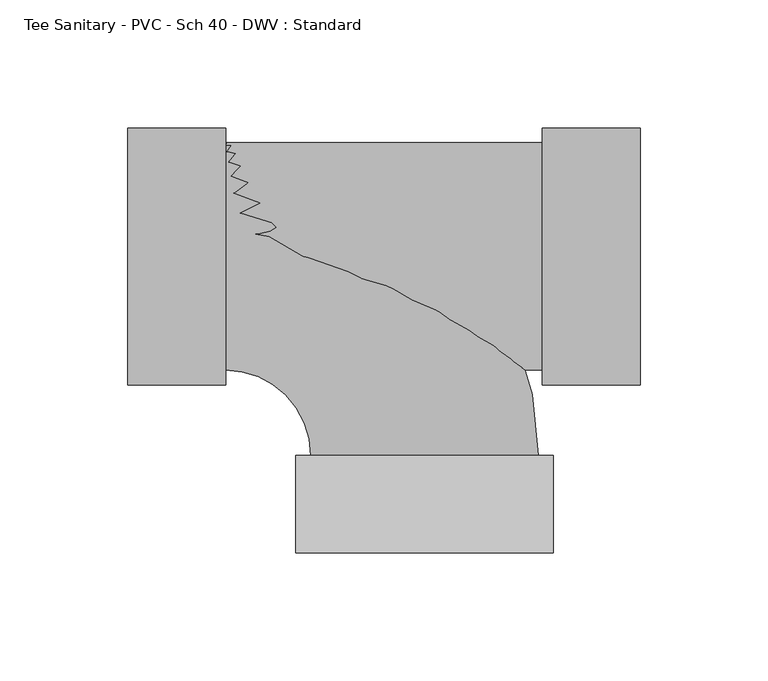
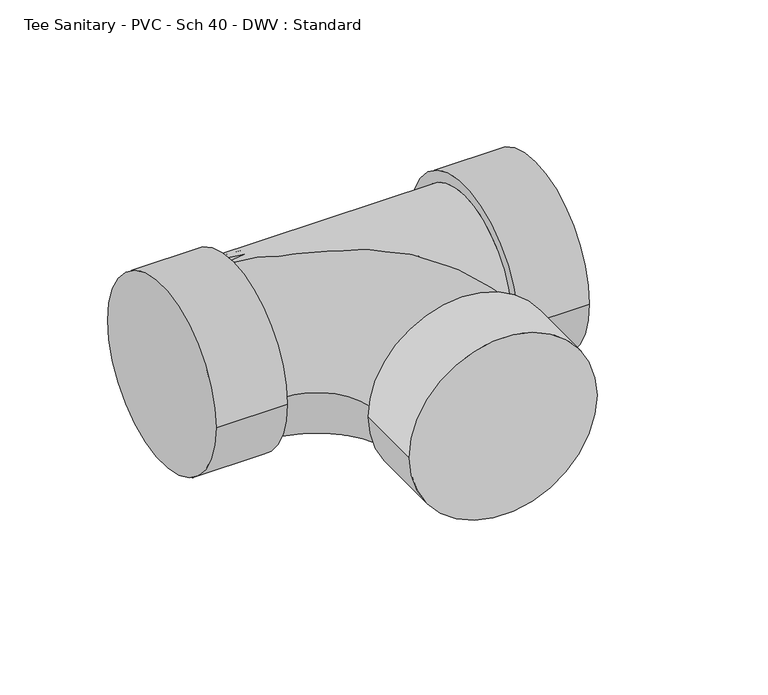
"""IFC4 building model written with IfcOpenShell, lengths in millimetres: pipe fitting geometry, Tee Sanitary - PVC - Sch 40 - DWV : Standard."""

import ifcopenshell
import ifcopenshell.guid

model = None  # the IFC model being written
_history = None  # IfcOwnerHistory: only IFC2X3 demands one
_inside = {}  # id of a spatial element -> (the spatial element, [elements in it])
_under = {}  # id of a project, library or spatial element -> (it, [spatial elements below it])
_declared = {}  # id of a project -> (the project, [libraries it declares])
_typed = {}  # id of a type object -> (the type object, [elements of that type])
_made_of = {}  # id of a material, layer set ... -> (it, [elements and type objects made of it])


def new_model(schema):
    """Start an empty IFC model of exactly this schema.

    Asked for "IFC4X3", IfcOpenShell would pick the latest addendum, in which some entities
    have other attributes; the version numbers below select the first issue.
    IFC2X3 requires an IfcOwnerHistory on every rooted entity: one is made here for all.
    """
    global model, _history
    if schema == "IFC4X3":
        model = ifcopenshell.file(schema_version=(4, 3, 0, 0))
    else:
        model = ifcopenshell.file(schema=schema)
    _inside.clear()
    _under.clear()
    _declared.clear()
    _typed.clear()
    _made_of.clear()
    _history = None
    if model.schema == "IFC2X3":
        org = make("IfcOrganization", Name="unknown")
        user = make(
            "IfcPersonAndOrganization",
            ThePerson=make("IfcPerson", FamilyName="unknown"),
            TheOrganization=org,
        )
        app = make(
            "IfcApplication",
            ApplicationDeveloper=org,
            Version="unknown",
            ApplicationFullName="unknown",
            ApplicationIdentifier="unknown",
        )
        _history = make(
            "IfcOwnerHistory",
            OwningUser=user,
            OwningApplication=app,
            ChangeAction="ADDED",
            CreationDate=0,
        )
    return model


def make(cls, **values):
    """One entity of the class cls with the attributes given. An attribute that is None is left unset."""
    return model.create_entity(
        cls, **{name: value for name, value in values.items() if value is not None}
    )


def rooted(cls, **values):
    """An entity with a GlobalId (a new one), such as an element, a storey or a relation."""
    return make(cls, GlobalId=ifcopenshell.guid.new(), OwnerHistory=_history, **values)


def si_unit(unit_type, name, prefix=None):
    """IfcSIUnit, for example si_unit("LENGTHUNIT", "METRE", prefix="MILLI")."""
    return make("IfcSIUnit", UnitType=unit_type, Prefix=prefix, Name=name)


def assignment(units):
    """IfcUnitAssignment: the units of a project."""
    return None if units is None else make("IfcUnitAssignment", Units=units)


def point(xyz):
    """IfcCartesianPoint."""
    return None if xyz is None else make("IfcCartesianPoint", Coordinates=xyz)


def direction(xyz):
    """IfcDirection."""
    return None if xyz is None else make("IfcDirection", DirectionRatios=xyz)


def frame(location, z_axis=None, x_axis=None):
    """IfcAxis2Placement3D, a coordinate frame: its origin and axes. An axis left out is left unset."""
    return make(
        "IfcAxis2Placement3D",
        Location=point(location),
        Axis=direction(z_axis),
        RefDirection=direction(x_axis),
    )


def origin():
    """The frame at (0, 0, 0) with its axes left unset."""
    return frame((0.0, 0.0, 0.0))


def place(relative_to, where):
    """IfcLocalPlacement: puts the frame where relative to a parent placement (None: the world)."""
    return make(
        "IfcLocalPlacement", PlacementRelTo=relative_to, RelativePlacement=where
    )


def context(
    kind, dimensions, precision=None, world=None, true_north=None, identifier=None
):
    """IfcGeometricRepresentationContext, for example the 3D "Model" context."""
    return make(
        "IfcGeometricRepresentationContext",
        ContextIdentifier=identifier,
        ContextType=kind,
        CoordinateSpaceDimension=dimensions,
        Precision=precision,
        WorldCoordinateSystem=world,
        TrueNorth=true_north,
    )


def project(units=None, contexts=None):
    """IfcProject with its units and contexts."""
    return rooted(
        "IfcProject",
        Name="project",
        RepresentationContexts=contexts,
        UnitsInContext=assignment(units),
    )


def spatial(cls, under=None, at=None, **own):
    """A site, building, storey or space (cls), placed at a placement, below another one or the project."""
    s = rooted(cls, ObjectPlacement=at, **own)
    if under is not None:
        _under.setdefault(under.id(), (under, []))[1].append(s)
    return s


def circle_curve(where, radius):
    """IfcCircle in the frame where."""
    return make("IfcCircle", Position=where, Radius=radius)


def ellipse_curve(where, semi_axis1, semi_axis2):
    """IfcEllipse in the frame where."""
    return make(
        "IfcEllipse", Position=where, SemiAxis1=semi_axis1, SemiAxis2=semi_axis2
    )


def trimmed(basis, trim1, trim2, sense, master):
    """IfcTrimmedCurve: the piece of a basis curve between two trims."""
    return make(
        "IfcTrimmedCurve",
        BasisCurve=basis,
        Trim1=trim1,
        Trim2=trim2,
        SenseAgreement=sense,
        MasterRepresentation=master,
    )


def shape(context_of_items, identifier, shape_type, items):
    """IfcShapeRepresentation: the items that make up one representation, for example the "Body"."""
    return make(
        "IfcShapeRepresentation",
        ContextOfItems=context_of_items,
        RepresentationIdentifier=identifier,
        RepresentationType=shape_type,
        Items=items,
    )


def source(mapping_origin, context_of_items, identifier, shape_type, items):
    """IfcRepresentationMap: a shape defined once, which mapped items show again and again."""
    return make(
        "IfcRepresentationMap",
        MappingOrigin=mapping_origin,
        MappedRepresentation=shape(context_of_items, identifier, shape_type, items),
    )


def transform(
    local_origin,
    x_axis=None,
    y_axis=None,
    z_axis=None,
    scale=None,
    scale2=None,
    scale3=None,
    uniform=True,
):
    """IfcCartesianTransformationOperator3D, or its non-uniform kind. x_axis, y_axis, z_axis: its Axis1, 2, 3."""
    if uniform:
        return make(
            "IfcCartesianTransformationOperator3D",
            Axis1=direction(x_axis),
            Axis2=direction(y_axis),
            LocalOrigin=point(local_origin),
            Scale=scale,
            Axis3=direction(z_axis),
        )
    return make(
        "IfcCartesianTransformationOperator3DnonUniform",
        Axis1=direction(x_axis),
        Axis2=direction(y_axis),
        LocalOrigin=point(local_origin),
        Scale=scale,
        Axis3=direction(z_axis),
        Scale2=scale2,
        Scale3=scale3,
    )


def mapped(mapping_source, mapping_target):
    """IfcMappedItem: shows the shape of a source again, moved by a transform."""
    return make(
        "IfcMappedItem", MappingSource=mapping_source, MappingTarget=mapping_target
    )


def made_of(thing, what):
    """Note that an element or type object is made of a material, layer set ...; save() writes the relation."""
    if what is not None:
        _made_of.setdefault(what.id(), (what, []))[1].append(thing)
    return thing


def element(
    cls,
    number,
    at=None,
    inside=None,
    cuts=None,
    type_object=None,
    material=None,
    context=None,
    identifier="Body",
    shape_type=None,
    held_by="IfcProductDefinitionShape",
    body=None,
    shapes=None,
    **own,
):
    """One element of the class cls, such as IfcWall. Its Tag is "e" and its number.

    at: its placement. inside: the storey or other place that contains it. cuts: it is an
    opening in that element (IfcRelVoidsElement). A single representation is given by context,
    identifier, shape_type and body (its items); several are given by shapes. held_by: the class
    of the entity that holds the representations. save() writes the other relations.
    """
    e = rooted(cls, Tag="e%d" % number, ObjectPlacement=at, **own)
    if body is not None:
        shapes = [shape(context, identifier, shape_type, body)]
    if shapes is not None:
        e.Representation = make(held_by, Representations=shapes)
    if inside is not None:
        _inside.setdefault(inside.id(), (inside, []))[1].append(e)
    if cuts is not None:
        rooted(
            "IfcRelVoidsElement", RelatingBuildingElement=cuts, RelatedOpeningElement=e
        )
    if type_object is not None:
        _typed.setdefault(type_object.id(), (type_object, []))[1].append(e)
    return made_of(e, material)


def aggregate(whole, parts):
    """IfcRelAggregates: a whole, such as a stair, and the parts it consists of."""
    return rooted("IfcRelAggregates", RelatingObject=whole, RelatedObjects=parts)


def save(model, path):
    """Write the relations noted so far, then the file.

    IfcRelAggregates (storeys below a building ...), IfcRelContainedInSpatialStructure (elements
    in a storey), IfcRelDefinesByType, IfcRelAssociatesMaterial and IfcRelDeclares: one each for
    every whole, place, type object, material and project.
    """
    for whole, parts in _under.values():
        aggregate(whole, parts)
    for where, things in _inside.values():
        rooted(
            "IfcRelContainedInSpatialStructure",
            RelatedElements=things,
            RelatingStructure=where,
        )
    for kind, things in _typed.values():
        rooted("IfcRelDefinesByType", RelatedObjects=things, RelatingType=kind)
    for what, things in _made_of.values():
        rooted("IfcRelAssociatesMaterial", RelatedObjects=things, RelatingMaterial=what)
    for by, libraries in _declared.values():
        rooted("IfcRelDeclares", RelatingContext=by, RelatedDefinitions=libraries)
    model.write(path)


def plane_surface(at):
    """IfcPlane: the flat surface through the origin of the frame at, square to its z axis."""
    return make("IfcPlane", Position=at)


def cylinder_surface(at, radius):
    """IfcCylindricalSurface: all points at the distance radius from the z axis of the frame at."""
    return make("IfcCylindricalSurface", Position=at, Radius=radius)


def revolved_surface(curve, axis_point, axis_direction):
    """IfcSurfaceOfRevolution: the curve turned about the line through axis_point along axis_direction."""
    return make(
        "IfcSurfaceOfRevolution",
        SweptCurve=make("IfcArbitraryOpenProfileDef", ProfileType="CURVE", Curve=curve),
        AxisPosition=make("IfcAxis1Placement", Location=point(axis_point), Axis=direction(axis_direction)),
    )


def advanced_brep(points, edges, surfaces, faces):
    """IfcAdvancedBrep: a solid bounded by faces that lie on surfaces and meet in shared edges.

    An edge is (start, end): straight between two places in points (the first is 0);
    or (start, end, curve); or (start, end, curve, False) where it runs against its curve.
    A face is (place in surfaces, loops), or (place, loops, False) where it looks against
    its surface's normal. A loop lists edges by number (the first is 1), with a minus sign
    where the edge is run from its end to its start. The first loop is the outer one.
    """
    corners = [point(p) for p in points]
    vertices = [make("IfcVertexPoint", VertexGeometry=c) for c in corners]
    made = []
    for start, end, *more in edges:
        made.append(
            make(
                "IfcEdgeCurve",
                EdgeStart=vertices[start],
                EdgeEnd=vertices[end],
                EdgeGeometry=more[0] if more else make("IfcPolyline", Points=[corners[start], corners[end]]),
                SameSense=more[1] if len(more) > 1 else True,
            )
        )
    hull = []
    for where, loops, *sense in faces:
        bounds = []
        for j, loop in enumerate(loops):
            ring = [make("IfcOrientedEdge", EdgeElement=made[abs(k) - 1], Orientation=k > 0) for k in loop]
            bounds.append(
                make(
                    "IfcFaceOuterBound" if j == 0 else "IfcFaceBound",
                    Bound=make("IfcEdgeLoop", EdgeList=ring),
                    Orientation=True,
                )
            )
        hull.append(make("IfcAdvancedFace", Bounds=bounds, FaceSurface=surfaces[where], SameSense=sense[0] if sense else True))
    return make("IfcAdvancedBrep", Outer=make("IfcClosedShell", CfsFaces=hull))


def tee_sanitary_pvc_sch_40_dwv_standard_0c631b1d(model_context):
    return source(origin(), model_context, "Body", "AdvancedBrep", [
        advanced_brep(
        [(-77.8002, -44.45, 0.0), (-77.8002, 44.45, 0.0), (-44.45, -77.8002, 0.0), (44.45, -77.8002, 0.0), (50.2666, -115.9002, 0.0), (-50.2666, -115.9002, 0.0), (50.2666, -77.8002, 0.0), (-50.2666, -77.8002, 0.0)],
        [
            (0, 1, circle_curve(frame((-77.8002, 0.0, 0.0), z_axis=(-1.0, 0.0, 0.0), x_axis=(0.0, 1.0, 0.0)), 44.45)),
            (1, 0, circle_curve(frame((-77.8002, 0.0, 0.0), z_axis=(-1.0, 0.0, 0.0), x_axis=(0.0, 1.0, 0.0)), 44.45)),
            (0, 2, circle_curve(frame((-77.8002, -77.8002, 0.0), z_axis=(0.0, 0.0, -1.0), x_axis=(0.0, 1.0, 0.0)), 33.3502)),
            (2, 3, circle_curve(frame((0.0, -77.8002, 0.0), z_axis=(-1.0287938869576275e-12, 1.0, 0.0), x_axis=(1.0, 1.0287938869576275e-12, 0.0)), 44.45)),
            (3, 1, circle_curve(frame((-77.8002, -77.8002, 0.0), z_axis=(0.0, 0.0, 1.0), x_axis=(0.0, 1.0, 0.0)), 122.2502)),
            (3, 2, circle_curve(frame((0.0, -77.8002, 0.0), z_axis=(-1.0287938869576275e-12, 1.0, 0.0), x_axis=(1.0, 1.0287938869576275e-12, 0.0)), 44.45)),
            (4, 5, circle_curve(frame((0.0, -115.9002, 0.0), z_axis=(0.0, -1.0, 0.0), x_axis=(-1.0, 0.0, 0.0)), 50.2666)),
            (5, 4, circle_curve(frame((0.0, -115.9002, 0.0), z_axis=(0.0, -1.0, 0.0), x_axis=(-1.0, 0.0, 0.0)), 50.2666)),
            (6, 7, circle_curve(frame((0.0, -77.8002, 0.0), z_axis=(0.0, 1.0, 0.0), x_axis=(-1.0, 0.0, 0.0)), 50.2666)),
            (7, 6, circle_curve(frame((0.0, -77.8002, 0.0), z_axis=(0.0, 1.0, 0.0), x_axis=(-1.0, 0.0, 0.0)), 50.2666)),
            (4, 6),
            (7, 5),
        ],
        [
            plane_surface(frame((-77.8002, 0.0, 0.0), z_axis=(-1.0, 0.0, 0.0), x_axis=(0.0, 0.0, 1.0))),
            revolved_surface(trimmed(ellipse_curve(frame((-77.8002, 0.0, 0.0), z_axis=(-1.0, 0.0, 0.0), x_axis=(0.0, 1.0, 0.0)), 44.45, 44.45), [point((-77.8002, -44.45, 0.0))], [point((-77.8002, 44.45, 0.0))], True, "CARTESIAN"), (-77.8002, -77.8002, 0.0), (0.0, 0.0, -1.0)),
            revolved_surface(trimmed(ellipse_curve(frame((-77.8002, 0.0, 0.0), z_axis=(-1.0, 0.0, 0.0), x_axis=(0.0, 1.0, 0.0)), 44.45, 44.45), [point((-77.8002, 44.45, 0.0))], [point((-77.8002, -44.45, 0.0))], True, "CARTESIAN"), (-77.8002, -77.8002, 0.0), (0.0, 0.0, -1.0)),
            plane_surface(frame((0.0, -115.9002, 0.0), z_axis=(0.0, -1.0, 0.0), x_axis=(0.0, 0.0, 1.0))),
            plane_surface(frame((0.0, -77.8002, 0.0), z_axis=(0.0, 1.0, 0.0), x_axis=(0.0, 0.0, 1.0))),
            cylinder_surface(frame((0.0, -115.9002, 0.0), z_axis=(0.0, -1.0, 0.0), x_axis=(-1.0, 0.0, 0.0)), 50.2666),
        ],
        [
            (0, [[1, 2]]),
            (1, [[-1, 3, 4, 5]]),
            (2, [[-2, -5, 6, -3]]),
            (3, [[7, 8]]),
            (4, [[9, 10], [-4, -6]]),
            (5, [[-7, 11, -10, 12]]),
            (5, [[-8, -12, -9, -11]]),
        ],
    ),
        advanced_brep(
        [(-77.8002, -44.45, 0.0), (46.0248, -44.45, 0.0), (46.0248, 44.45, 0.0), (-77.8002, 44.45, 0.0), (46.0248, -50.2666, 0.0), (46.0248, 50.2666, 0.0), (84.1248, -50.2666, 0.0), (84.1248, 50.2666, 0.0), (-115.9002, -50.2666, 0.0), (-115.9002, 50.2666, 0.0), (-77.8002, -50.2666, 0.0), (-77.8002, 50.2666, 0.0)],
        [
            (0, 1),
            (1, 2, circle_curve(frame((46.0248, 0.0, 0.0), z_axis=(-1.0, 0.0, 0.0), x_axis=(0.0, 1.0, 0.0)), 44.45)),
            (2, 3),
            (3, 0, circle_curve(frame((-77.8002, 0.0, 0.0), z_axis=(1.0, 0.0, 0.0), x_axis=(0.0, 1.0, 0.0)), 44.45)),
            (0, 3, circle_curve(frame((-77.8002, 0.0, 0.0), z_axis=(1.0, 0.0, 0.0), x_axis=(0.0, 1.0, 0.0)), 44.45)),
            (2, 1, circle_curve(frame((46.0248, 0.0, 0.0), z_axis=(-1.0, 0.0, 0.0), x_axis=(0.0, 1.0, 0.0)), 44.45)),
            (4, 5, circle_curve(frame((46.0248, 0.0, 0.0), z_axis=(-1.0, 0.0, 0.0), x_axis=(0.0, 1.0, 0.0)), 50.2666)),
            (5, 4, circle_curve(frame((46.0248, 0.0, 0.0), z_axis=(-1.0, 0.0, 0.0), x_axis=(0.0, 1.0, 0.0)), 50.2666)),
            (6, 7, circle_curve(frame((84.1248, 0.0, 0.0), z_axis=(1.0, 0.0, 0.0), x_axis=(0.0, 1.0, 0.0)), 50.2666)),
            (7, 6, circle_curve(frame((84.1248, 0.0, 0.0), z_axis=(1.0, 0.0, 0.0), x_axis=(0.0, 1.0, 0.0)), 50.2666)),
            (4, 6),
            (7, 5),
            (8, 9, circle_curve(frame((-115.9002, 0.0, 0.0), z_axis=(-1.0, 0.0, 0.0), x_axis=(0.0, 1.0, 0.0)), 50.2666)),
            (9, 8, circle_curve(frame((-115.9002, 0.0, 0.0), z_axis=(-1.0, 0.0, 0.0), x_axis=(0.0, 1.0, 0.0)), 50.2666)),
            (10, 11, circle_curve(frame((-77.8002, 0.0, 0.0), z_axis=(1.0, 0.0, 0.0), x_axis=(0.0, 1.0, 0.0)), 50.2666)),
            (11, 10, circle_curve(frame((-77.8002, 0.0, 0.0), z_axis=(1.0, 0.0, 0.0), x_axis=(0.0, 1.0, 0.0)), 50.2666)),
            (8, 10),
            (11, 9),
        ],
        [
            cylinder_surface(frame((-77.8002, 0.0, 0.0), z_axis=(-1.0, 0.0, 0.0), x_axis=(0.0, 1.0, 0.0)), 44.45),
            plane_surface(frame((46.0248, 0.0, 0.0), z_axis=(-1.0, 0.0, 0.0), x_axis=(0.0, 0.0, 1.0))),
            plane_surface(frame((84.1248, 0.0, 0.0), z_axis=(1.0, 0.0, 0.0), x_axis=(0.0, 0.0, 1.0))),
            cylinder_surface(frame((46.0248, 0.0, 0.0), z_axis=(-1.0, 0.0, 0.0), x_axis=(0.0, 1.0, 0.0)), 50.2666),
            plane_surface(frame((-115.9002, 0.0, 0.0), z_axis=(-1.0, 0.0, 0.0), x_axis=(0.0, 0.0, 1.0))),
            plane_surface(frame((-77.8002, 0.0, 0.0), z_axis=(1.0, 0.0, 0.0), x_axis=(0.0, 0.0, 1.0))),
            cylinder_surface(frame((-115.9002, 0.0, 0.0), z_axis=(-1.0, 0.0, 0.0), x_axis=(0.0, 1.0, 0.0)), 50.2666),
        ],
        [
            (0, [[1, 2, 3, 4]]),
            (0, [[-1, 5, -3, 6]]),
            (1, [[7, 8], [-2, -6]]),
            (2, [[9, 10]]),
            (3, [[-7, 11, -10, 12]]),
            (3, [[-8, -12, -9, -11]]),
            (4, [[13, 14]]),
            (5, [[15, 16], [-4, -5]]),
            (6, [[-13, 17, -16, 18]]),
            (6, [[-14, -18, -15, -17]]),
        ],
    ),
    ])


if __name__ == "__main__":
    model = new_model("IFC4")
    model_context = context("Model", 3, world=origin())
    ifc_project = project(units=[si_unit("LENGTHUNIT", "METRE", prefix="MILLI")], contexts=[model_context])
    site = spatial("IfcSite", under=ifc_project)
    building = spatial("IfcBuilding", under=site)
    placement = place(None, origin())
    tee_sanitary_pvc_sch_40_dwv_standard_shape = tee_sanitary_pvc_sch_40_dwv_standard_0c631b1d(model_context)
    element("IfcPipeFitting", 1, ObjectType="Tee Sanitary - PVC - Sch 40 - DWV : Standard", at=placement, inside=building, context=model_context, shape_type="MappedRepresentation", body=[
        mapped(tee_sanitary_pvc_sch_40_dwv_standard_shape, transform((0.0, 0.0, 0.0), x_axis=(1.0, 0.0, 0.0), y_axis=(0.0, 1.0, 0.0), z_axis=(0.0, 0.0, 1.0))),
    ])
    save(model, "model.ifc")
